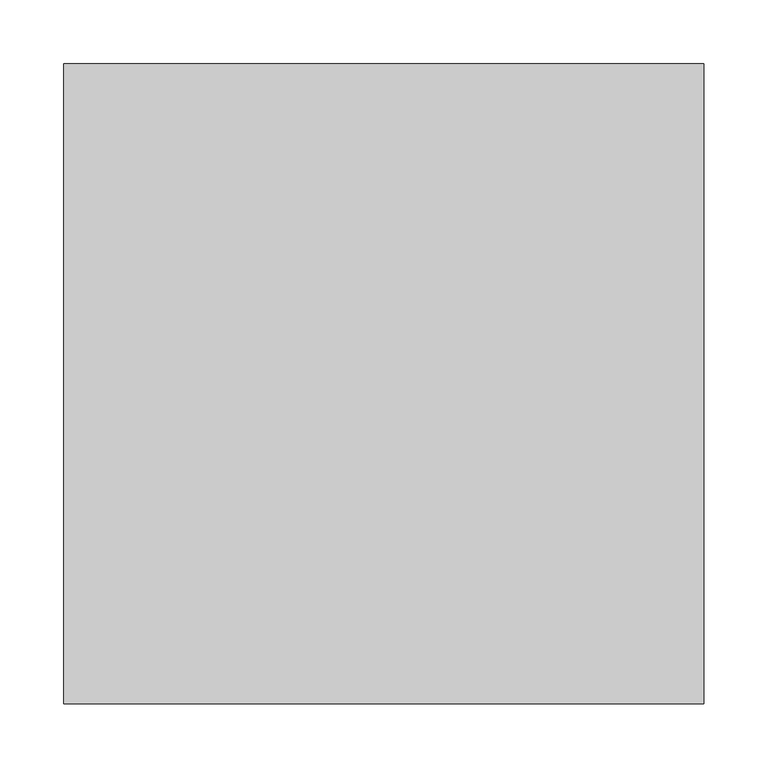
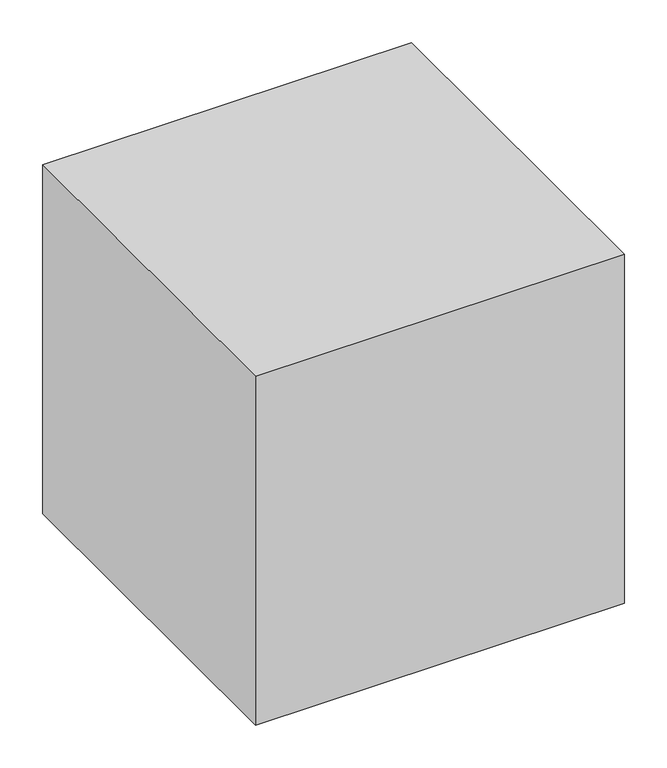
"""IFC4 building model written with IfcOpenShell, lengths in millimetres: furniture geometry, Fu_тумба прикроватная_LEG : 500х500."""

from ifc_helpers import new_model, si_unit, origin, origin_with_axes, place, context, project, spatial, polyline, outline, extrude, source, transform, mapped, element, save


def furniture_af5cb44b(model_context):
    return source(origin(), model_context, "Body", "SweptSolid", [
        extrude(outline(polyline([(250.0, 250.0), (250.0, -250.0), (-250.0, -250.0), (-250.0, 250.0), (250.0, 250.0)])), origin_with_axes(), (0.0, 0.0, 1.0), 500.0),
    ])


if __name__ == "__main__":
    model = new_model("IFC4")
    model_context = context("Model", 3, world=origin())
    ifc_project = project(units=[si_unit("LENGTHUNIT", "METRE", prefix="MILLI")], contexts=[model_context])
    site = spatial("IfcSite", under=ifc_project)
    building = spatial("IfcBuilding", under=site)
    placement = place(None, origin())
    furniture_shape = furniture_af5cb44b(model_context)
    element("IfcFurniture", 1, ObjectType="Fu_тумба прикроватная_LEG : 500х500", at=placement, inside=building, context=model_context, shape_type="MappedRepresentation", body=[
        mapped(furniture_shape, transform((0.0, 0.0, 0.0), x_axis=(1.0, 0.0, 0.0), y_axis=(0.0, 1.0, 0.0), z_axis=(0.0, 0.0, 1.0))),
    ])
    save(model, "model.ifc")
